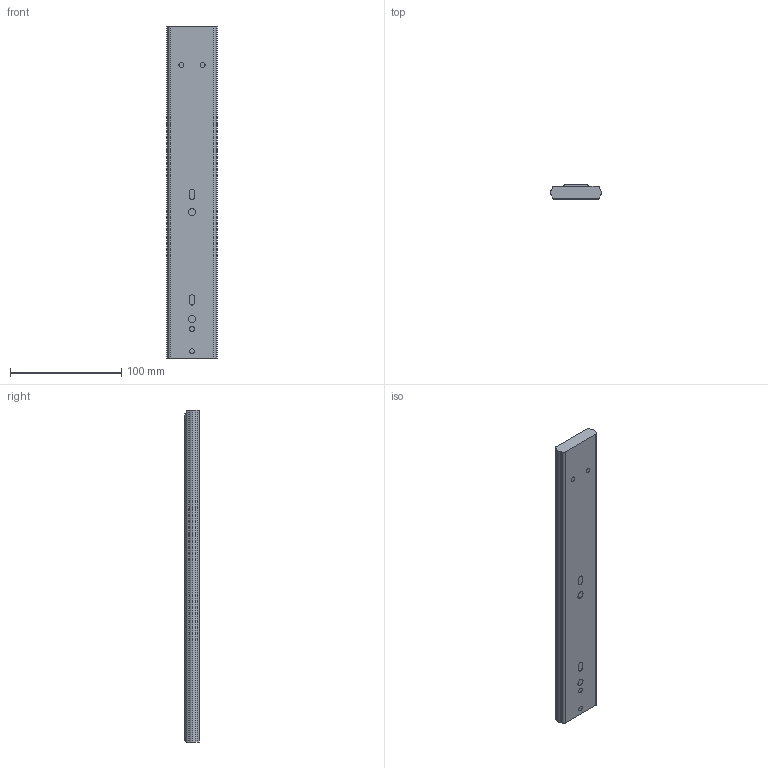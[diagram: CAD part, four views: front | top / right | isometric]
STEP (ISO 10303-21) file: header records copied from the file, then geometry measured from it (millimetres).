
FILE_DESCRIPTION (( 'STEP AP203' ), '1' );
FILE_NAME ('4587112H(¹Ø).STEP', '2020-02-13T09:00:26', ( 'ZZG' ), ( 'Microsoft' ), 'SwSTEP 2.0', 'SolidWorks 2012', '' );
FILE_SCHEMA (( 'CONFIG_CONTROL_DESIGN' ));
Length unit declared in the file: millimetre
Products named in the file (1): 4587112H(壽)
Bounding box: 45.57 x 12.7 x 298 mm (x, y, z)
Volume: 156025.9 mm3; surface area: 33279.4 mm2
Topology: 1 solids, 1 shells, 173 faces, 457 edges, 302 vertices
Faces by surface type: cylinder 89, plane 74, cone 6, bspline 4
Entity records: 5602 total; most frequent: CARTESIAN_POINT 1309, ORIENTED_EDGE 914, DIRECTION 852, EDGE_CURVE 457, VERTEX_POINT 302, AXIS2_PLACEMENT_3D 301, VECTOR 250, LINE 250
